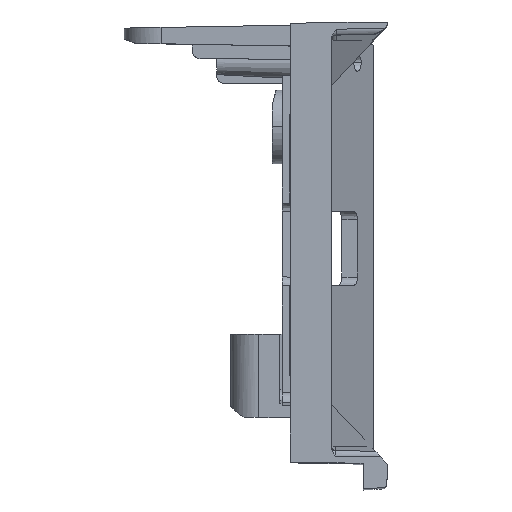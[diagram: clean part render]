
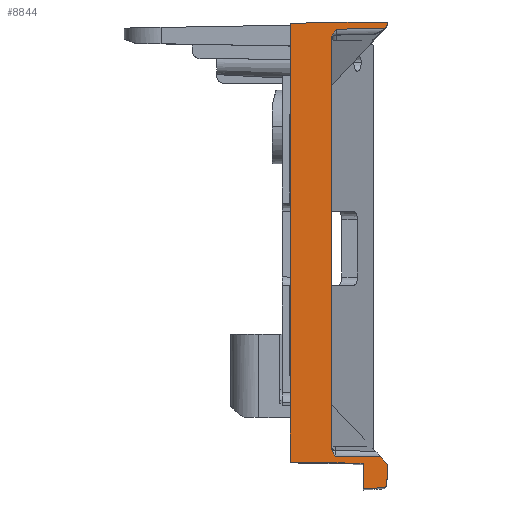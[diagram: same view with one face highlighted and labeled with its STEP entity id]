
A CAD part, top view. The second image highlights one B-rep face of the part: STEP entity #8844.
In plain terms, the highlighted planar face has unit normal (0.009, 0, 1).
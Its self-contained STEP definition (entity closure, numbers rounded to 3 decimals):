
#420=CARTESIAN_POINT('',(382.781,-24.899,41.839));
#426=DIRECTION('',(0.,1.,0.));
#427=VECTOR('',#426,49.776);
#428=CARTESIAN_POINT('',(382.781,-24.899,41.839));
#429=LINE('',#428,#427);
#434=CARTESIAN_POINT('',(382.781,24.877,41.839));
#573=CARTESIAN_POINT('',(383.376,26.122,41.834));
#587=CARTESIAN_POINT('',(382.781,24.877,41.839));
#588=CARTESIAN_POINT('',(382.781,24.937,41.839));
#589=CARTESIAN_POINT('',(382.792,25.06,41.839));
#590=CARTESIAN_POINT('',(382.843,25.259,41.838));
#591=CARTESIAN_POINT('',(382.929,25.466,41.838));
#592=CARTESIAN_POINT('',(383.05,25.678,41.837));
#593=CARTESIAN_POINT('',(383.2,25.894,41.835));
#594=CARTESIAN_POINT('',(383.316,26.044,41.834));
#595=CARTESIAN_POINT('',(383.376,26.122,41.834));
#597=DIRECTION('',(-1.,0.017,0.009));
#598=VECTOR('',#597,5.576);
#599=CARTESIAN_POINT('',(388.852,-26.111,41.786));
#600=LINE('',#599,#598);
#601=CARTESIAN_POINT('',(389.088,-29.874,41.784));
#602=CARTESIAN_POINT('',(389.238,-29.866,41.783));
#603=CARTESIAN_POINT('',(389.435,-29.747,41.781));
#604=CARTESIAN_POINT('',(389.553,-29.55,41.78));
#605=CARTESIAN_POINT('',(389.561,-29.4,41.78));
#607=DIRECTION('',(-0.999,-0.052,0.009));
#608=VECTOR('',#607,2.41);
#609=CARTESIAN_POINT('',(389.088,-29.874,41.784));
#610=LINE('',#609,#608);
#611=DIRECTION('',(1.,-0.017,-0.009));
#612=VECTOR('',#611,7.684);
#613=CARTESIAN_POINT('',(377.781,-26.742,41.883));
#614=LINE('',#613,#612);
#615=DIRECTION('',(0.,1.,0.));
#616=VECTOR('',#615,53.587);
#617=CARTESIAN_POINT('',(377.781,-26.742,41.883));
#618=LINE('',#617,#616);
#619=DIRECTION('',(-1.,-0.017,0.009));
#620=VECTOR('',#619,8.902);
#621=CARTESIAN_POINT('',(386.681,27.,41.805));
#622=LINE('',#621,#620);
#623=DIRECTION('',(-1.,0.017,0.009));
#624=VECTOR('',#623,3.001);
#625=CARTESIAN_POINT('',(389.681,26.948,41.779));
#626=LINE('',#625,#624);
#627=DIRECTION('',(0.,1.,0.));
#628=VECTOR('',#627,0.269);
#629=CARTESIAN_POINT('',(389.681,26.678,41.779));
#630=LINE('',#629,#628);
#631=DIRECTION('',(0.682,0.731,-0.006));
#632=VECTOR('',#631,0.62);
#633=CARTESIAN_POINT('',(389.258,26.225,41.782));
#634=LINE('',#633,#632);
#635=DIRECTION('',(1.,0.017,-0.009));
#636=VECTOR('',#635,5.883);
#637=CARTESIAN_POINT('',(383.376,26.122,41.834));
#638=LINE('',#637,#636);
#649=CARTESIAN_POINT('',(383.277,-26.013,41.835));
#650=CARTESIAN_POINT('',(383.217,-25.929,41.835));
#651=CARTESIAN_POINT('',(383.103,-25.768,41.836));
#652=CARTESIAN_POINT('',(382.961,-25.534,41.837));
#653=CARTESIAN_POINT('',(382.857,-25.31,41.838));
#654=CARTESIAN_POINT('',(382.795,-25.099,41.839));
#655=CARTESIAN_POINT('',(382.781,-24.965,41.839));
#656=CARTESIAN_POINT('',(382.781,-24.899,41.839));
#688=DIRECTION('',(-0.682,0.731,0.006));
#689=VECTOR('',#688,1.216);
#690=CARTESIAN_POINT('',(389.681,-27.,41.779));
#691=LINE('',#690,#689);
#2453=DIRECTION('',(1.,0.,-0.009));
#2454=VECTOR('',#2453,1.195);
#2455=CARTESIAN_POINT('',(385.486,-26.9,41.815));
#2456=LINE('',#2455,#2454);
#2505=DIRECTION('',(0.682,-0.731,-0.006));
#2506=VECTOR('',#2505,0.032);
#2507=CARTESIAN_POINT('',(385.464,-26.876,41.816));
#2508=LINE('',#2507,#2506);
#2663=DIRECTION('',(0.,-1.,0.));
#2664=VECTOR('',#2663,3.1);
#2665=CARTESIAN_POINT('',(386.681,-26.9,41.805));
#2666=LINE('',#2665,#2664);
#2700=DIRECTION('',(0.05,0.999,0.));
#2701=VECTOR('',#2700,2.403);
#2702=CARTESIAN_POINT('',(389.561,-29.4,41.78));
#2703=LINE('',#2702,#2701);
#4247=CARTESIAN_POINT('',(383.277,-26.013,41.835));
#6617=CARTESIAN_POINT('',(385.486,-26.9,41.815));
#6618=CARTESIAN_POINT('',(386.681,-26.9,41.805));
#6619=VERTEX_POINT('',#6617);
#6620=VERTEX_POINT('',#6618);
#6621=CARTESIAN_POINT('',(389.681,26.678,41.779));
#6622=CARTESIAN_POINT('',(389.681,26.948,41.779));
#6623=VERTEX_POINT('',#6621);
#6624=VERTEX_POINT('',#6622);
#6625=CARTESIAN_POINT('',(377.781,26.845,41.883));
#6626=VERTEX_POINT('',#6625);
#6679=CARTESIAN_POINT('',(389.681,-27.,41.779));
#6680=CARTESIAN_POINT('',(388.852,-26.111,41.786));
#6681=VERTEX_POINT('',#6679);
#6682=VERTEX_POINT('',#6680);
#6683=CARTESIAN_POINT('',(389.258,26.225,41.782));
#6684=VERTEX_POINT('',#6683);
#6685=CARTESIAN_POINT('',(386.681,27.,41.805));
#6686=VERTEX_POINT('',#6685);
#6851=CARTESIAN_POINT('',(386.681,-30.,41.805));
#6852=VERTEX_POINT('',#6851);
#6853=VERTEX_POINT('',#601);
#6854=VERTEX_POINT('',#605);
#8071=CARTESIAN_POINT('',(377.781,-26.742,41.883));
#8072=VERTEX_POINT('',#8071);
#8073=CARTESIAN_POINT('',(385.464,-26.876,41.816));
#8074=VERTEX_POINT('',#8073);
#8094=VERTEX_POINT('',#573);
#8095=VERTEX_POINT('',#434);
#8108=VERTEX_POINT('',#420);
#8109=VERTEX_POINT('',#4247);
#8805=CARTESIAN_POINT('',(377.781,-31.2,41.883));
#8806=DIRECTION('',(0.009,0.,1.));
#8807=DIRECTION('',(0.,1.,0.));
#8808=AXIS2_PLACEMENT_3D('',#8805,#8806,#8807);
#8809=PLANE('',#8808);
#8810=ORIENTED_EDGE('',*,*,#8545,.F.);
#8812=ORIENTED_EDGE('',*,*,#8811,.F.);
#8814=ORIENTED_EDGE('',*,*,#8813,.F.);
#8816=ORIENTED_EDGE('',*,*,#8815,.F.);
#8818=ORIENTED_EDGE('',*,*,#8817,.F.);
#8820=ORIENTED_EDGE('',*,*,#8819,.F.);
#8822=ORIENTED_EDGE('',*,*,#8821,.T.);
#8824=ORIENTED_EDGE('',*,*,#8823,.F.);
#8826=ORIENTED_EDGE('',*,*,#8825,.F.);
#8828=ORIENTED_EDGE('',*,*,#8827,.F.);
#8830=ORIENTED_EDGE('',*,*,#8829,.F.);
#8831=ORIENTED_EDGE('',*,*,#8402,.T.);
#8833=ORIENTED_EDGE('',*,*,#8832,.F.);
#8835=ORIENTED_EDGE('',*,*,#8834,.F.);
#8837=ORIENTED_EDGE('',*,*,#8836,.F.);
#8839=ORIENTED_EDGE('',*,*,#8838,.F.);
#8840=ORIENTED_EDGE('',*,*,#8746,.F.);
#8841=ORIENTED_EDGE('',*,*,#8800,.F.);
#8842=EDGE_LOOP('',(#8810,#8812,#8814,#8816,#8818,#8820,#8822,#8824,#8826,#8828,
#8830,#8831,#8833,#8835,#8837,#8839,#8840,#8841));
#8843=FACE_OUTER_BOUND('',#8842,.F.);
#8844=ADVANCED_FACE('',(#8843),#8809,.T.);
#596=B_SPLINE_CURVE_WITH_KNOTS('',3,(#587,#588,#589,#590,#591,#592,#593,#594,
#595),.UNSPECIFIED.,.F.,.F.,(4,1,1,1,1,1,4),(0.,0.167,
0.333,0.5,0.667,0.833,1.),
.UNSPECIFIED.);
#606=B_SPLINE_CURVE_WITH_KNOTS('',3,(#601,#602,#603,#604,#605),.UNSPECIFIED.,
.F.,.F.,(4,1,4),(0.,0.5,1.),.UNSPECIFIED.);
#657=B_SPLINE_CURVE_WITH_KNOTS('',3,(#649,#650,#651,#652,#653,#654,#655,#656),
.UNSPECIFIED.,.F.,.F.,(4,1,1,1,1,4),(0.,0.2,0.4,0.6,0.8,1.),
.UNSPECIFIED.);
#8402=EDGE_CURVE('',#8072,#6626,#618,.T.);
#8545=EDGE_CURVE('',#8108,#8095,#429,.T.);
#8746=EDGE_CURVE('',#8094,#6684,#638,.T.);
#8800=EDGE_CURVE('',#8095,#8094,#596,.T.);
#8811=EDGE_CURVE('',#8109,#8108,#657,.T.);
#8813=EDGE_CURVE('',#6682,#8109,#600,.T.);
#8815=EDGE_CURVE('',#6681,#6682,#691,.T.);
#8817=EDGE_CURVE('',#6854,#6681,#2703,.T.);
#8819=EDGE_CURVE('',#6853,#6854,#606,.T.);
#8821=EDGE_CURVE('',#6853,#6852,#610,.T.);
#8823=EDGE_CURVE('',#6620,#6852,#2666,.T.);
#8825=EDGE_CURVE('',#6619,#6620,#2456,.T.);
#8827=EDGE_CURVE('',#8074,#6619,#2508,.T.);
#8829=EDGE_CURVE('',#8072,#8074,#614,.T.);
#8832=EDGE_CURVE('',#6686,#6626,#622,.T.);
#8834=EDGE_CURVE('',#6624,#6686,#626,.T.);
#8836=EDGE_CURVE('',#6623,#6624,#630,.T.);
#8838=EDGE_CURVE('',#6684,#6623,#634,.T.);
